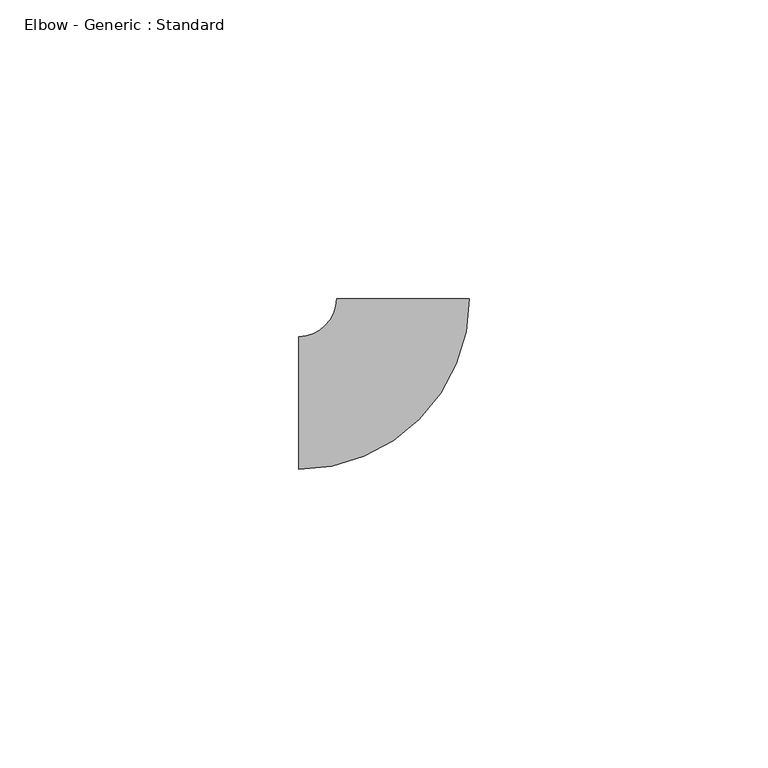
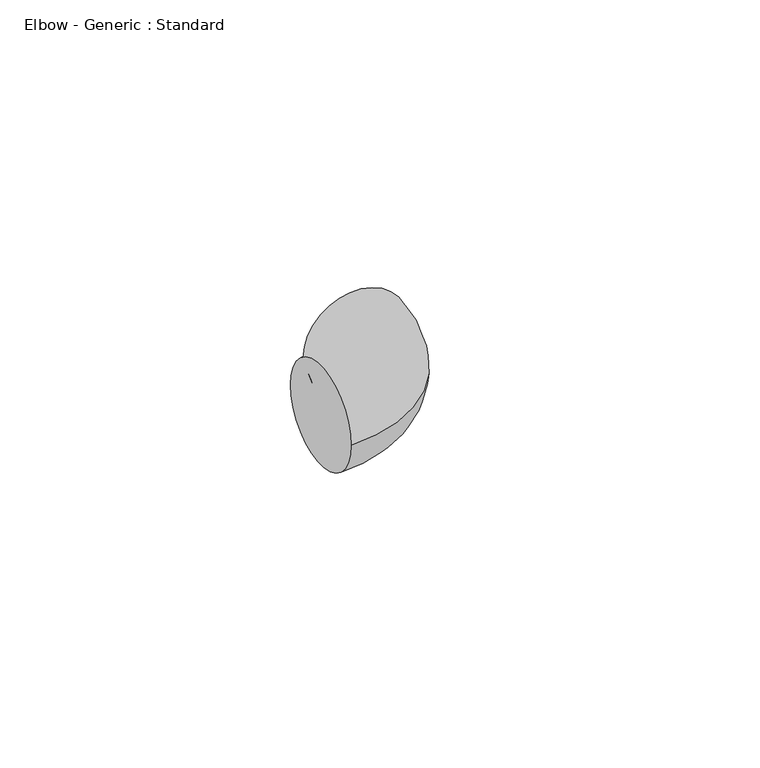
"""IFC4 building model written with IfcOpenShell, lengths in millimetres: pipe fitting geometry, Elbow - Generic : Standard."""

from ifc_helpers import new_model, si_unit, point, frame, origin, place, context, project, spatial, circle_curve, ellipse_curve, trimmed, source, transform, mapped, element, save
from ifc_brep_helpers import plane_surface, revolved_surface, advanced_brep


def elbow_generic_standard_e3098451(model_context):
    return source(origin(), model_context, "Body", "AdvancedBrep", [
        advanced_brep(
        [(-17.4650551, -11.1125, 0.0), (-17.4650551, 11.1125, 0.0), (11.1099446, 17.4666807, 0.0), (-11.1150552, 17.4634291, 0.0)],
        [
            (0, 1, circle_curve(frame((-17.4650551, 0.0, 0.0), z_axis=(-1.0, 0.0, 0.0), x_axis=(0.0, 1.0, 0.0)), 11.1125)),
            (1, 0, circle_curve(frame((-17.4650551, 0.0, 0.0), z_axis=(-1.0, 0.0, 0.0), x_axis=(0.0, 1.0, 0.0)), 11.1125)),
            (2, 3, circle_curve(frame((-0.0025553, 17.4650549, 0.0), z_axis=(-0.00014630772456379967, 0.9999999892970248, 0.0), x_axis=(-0.9999999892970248, -0.00014630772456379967, 0.0)), 11.1125)),
            (3, 2, circle_curve(frame((-0.0025553, 17.4650549, 0.0), z_axis=(-0.00014630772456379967, 0.9999999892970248, 0.0), x_axis=(-0.9999999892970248, -0.00014630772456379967, 0.0)), 11.1125)),
            (3, 1, circle_curve(frame((-17.4650551, 17.4625, 0.0), z_axis=(0.0, 0.0, -1.0), x_axis=(0.0, -1.0, 0.0)), 6.35)),
            (0, 2, circle_curve(frame((-17.4650551, 17.4625, 0.0), z_axis=(0.0, 0.0, 1.0), x_axis=(0.0, -1.0, 0.0)), 28.575)),
        ],
        [
            plane_surface(frame((-17.4650551, 0.0, 0.0), z_axis=(-1.0, 0.0, 0.0), x_axis=(0.0, 0.0, 1.0))),
            plane_surface(frame((-0.0025553, 17.4650549, 0.0), z_axis=(-0.0001463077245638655, 0.9999999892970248, 0.0), x_axis=(0.0, 0.0, 1.0))),
            revolved_surface(trimmed(ellipse_curve(frame((-17.4650551, 0.0, 0.0), z_axis=(-1.0, 0.0, 0.0), x_axis=(0.0, 1.0, 0.0)), 11.1125, 11.1125), [point((-17.4650551, -11.1125, 0.0))], [point((-17.4650551, 11.1125, 0.0))], True, "CARTESIAN"), (-17.4650551, 17.4625, 0.0), (0.0, 0.0, 1.0)),
            revolved_surface(trimmed(ellipse_curve(frame((-17.4650551, 0.0, 0.0), z_axis=(-1.0, 0.0, 0.0), x_axis=(0.0, 1.0, 0.0)), 11.1125, 11.1125), [point((-17.4650551, 11.1125, 0.0))], [point((-17.4650551, -11.1125, 0.0))], True, "CARTESIAN"), (-17.4650551, 17.4625, 0.0), (0.0, 0.0, 1.0)),
        ],
        [
            (0, [[1, 2]]),
            (1, [[3, 4]]),
            (2, [[5, -1, 6, -4]]),
            (3, [[-6, -2, -5, -3]]),
        ],
    ),
    ])


if __name__ == "__main__":
    model = new_model("IFC4")
    model_context = context("Model", 3, world=origin())
    ifc_project = project(units=[si_unit("LENGTHUNIT", "METRE", prefix="MILLI")], contexts=[model_context])
    site = spatial("IfcSite", under=ifc_project)
    building = spatial("IfcBuilding", under=site)
    placement = place(None, origin())
    elbow_generic_standard_shape = elbow_generic_standard_e3098451(model_context)
    element("IfcPipeFitting", 1, ObjectType="Elbow - Generic : Standard", at=placement, inside=building, context=model_context, shape_type="MappedRepresentation", body=[
        mapped(elbow_generic_standard_shape, transform((0.0, 0.0, 0.0), x_axis=(1.0, 0.0, 0.0), y_axis=(0.0, 1.0, 0.0), z_axis=(0.0, 0.0, 1.0))),
    ])
    save(model, "model.ifc")
